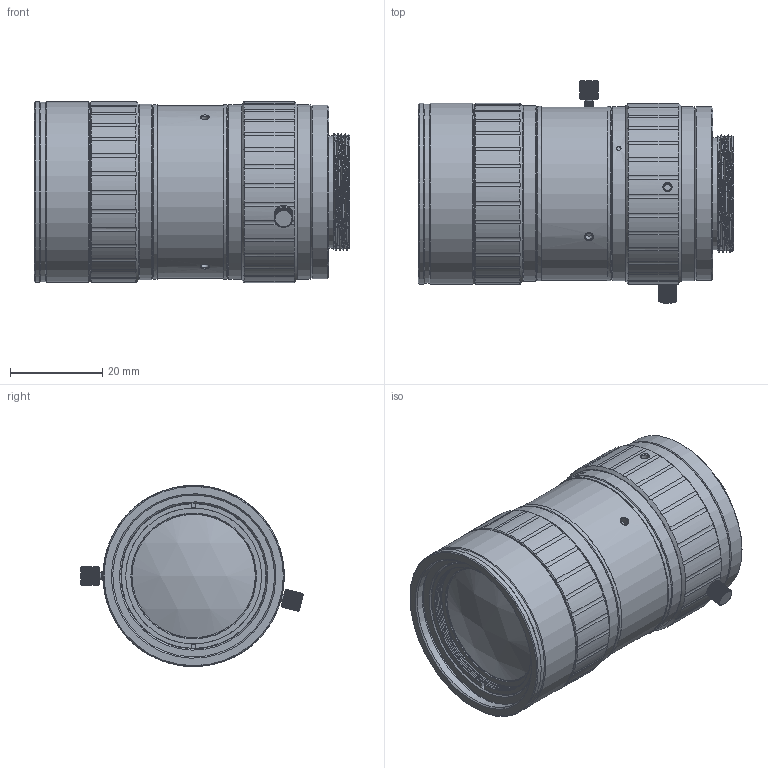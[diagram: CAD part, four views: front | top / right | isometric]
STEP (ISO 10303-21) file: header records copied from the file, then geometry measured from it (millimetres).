
FILE_DESCRIPTION (( 'STEP AP203' ), '1' );
FILE_NAME ('QM994318121軞蚾.STEP', '2023-12-15T07:12:38', ( '' ), ( '' ), 'SwSTEP 2.0', 'SolidWorks 2018', '' );
FILE_SCHEMA (( 'CONFIG_CONTROL_DESIGN' ));
Length unit declared in the file: millimetre
Products named in the file (1): QM994318121軞蚾
Bounding box: 68.2 x 48.18 x 39.2 mm (x, y, z)
Volume: 47285.4 mm3; surface area: 45979.7 mm2
Topology: 16 solids, 16 shells, 1198 faces, 3214 edges, 2097 vertices
Faces by surface type: plane 532, cylinder 419, cone 193, bspline 45, torus 5, sphere 4
Full cylindrical faces by diameter (mm): 1 x1, 1.2 x3, 1.25 x1, 1.4 x8, 1.5 x2, 1.6 x18, 1.8 x3, 2.5 x3, 2.9 x3, 6.5 x2, 7.601 x2, 9.4 x2, 10.842 x1, 15.242 x1, 17.5 x1, 17.7 x1, 17.8 x1, 18.227 x1, 18.3 x1, 18.9 x1, 19 x1, 19.1 x1, 19.3 x1, 19.6 x1, 19.7 x1, 19.963 x1, 20.5 x1, 20.7 x1, 20.9 x1, 21 x2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
Entity records: 45094 total; most frequent: CARTESIAN_POINT 18251, ORIENTED_EDGE 5690, DIRECTION 4895, EDGE_CURVE 2845, AXIS2_PLACEMENT_3D 2028, VERTEX_POINT 2021, EDGE_LOOP 1604, FACE_OUTER_BOUND 1341
